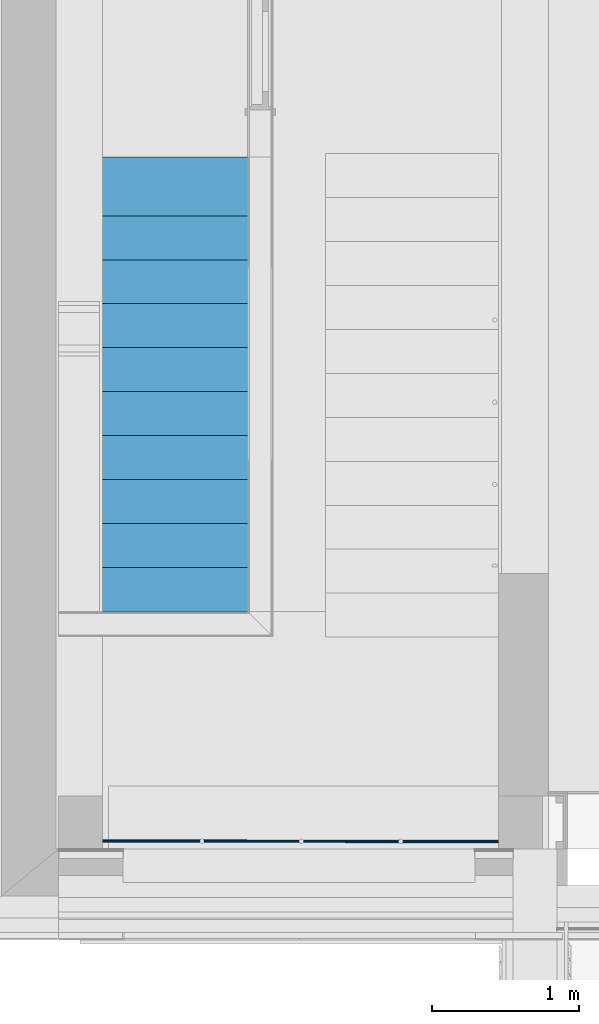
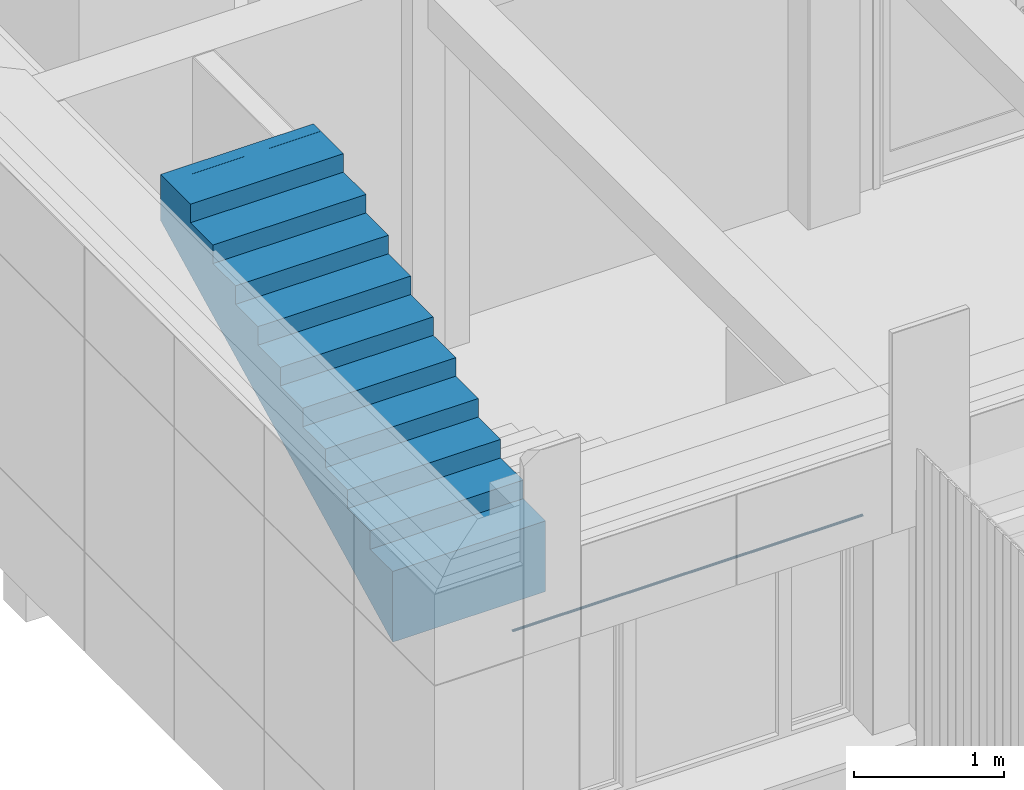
# One storey, part 76 of 418: 2 members, 2 elements without a shape of their own.
"""IFC2X3 building model written with IfcOpenShell, lengths in millimetres."""

from ifc_helpers import new_model, entity, si_unit, converted_unit, derived_unit, money_unit, direction, frame, origin_with_axes, place, context, subcontext, project, spatial, faceted_brep, material, type_object, element, aggregate, save


model = new_model("IFC2X3")

# Units and contexts
model_context = context("Model", 3, precision=0.01, world=origin_with_axes(), true_north=direction((0.0, 1.0)))
body_context = subcontext(model_context, "Body", "Model", "MODEL_VIEW")
ifc_project = project(units=[si_unit("LENGTHUNIT", "METRE", prefix="MILLI"), si_unit("AREAUNIT", "SQUARE_METRE"), si_unit("VOLUMEUNIT", "CUBIC_METRE"), converted_unit("PLANEANGLEUNIT", "DEGREE", entity("IfcPlaneAngleMeasure", 0.0174532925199), si_unit("PLANEANGLEUNIT", "RADIAN"), dimensions=[0, 0, 0, 0, 0, 0, 0]), si_unit("SOLIDANGLEUNIT", "STERADIAN"), money_unit("EUR"), converted_unit("TIMEUNIT", "Year", entity("IfcTimeMeasure", 31556926.0), si_unit("TIMEUNIT", "SECOND"), dimensions=[0, 0, 1, 0, 0, 0, 0]), si_unit("MASSUNIT", "GRAM", prefix="KILO"), si_unit("THERMODYNAMICTEMPERATUREUNIT", "DEGREE_CELSIUS"), si_unit("LUMINOUSINTENSITYUNIT", "LUMEN"), si_unit("ENERGYUNIT", "JOULE", prefix="MEGA"), derived_unit("THERMALCONDUCTANCEUNIT", [(si_unit("POWERUNIT", "WATT"), 1), (si_unit("LENGTHUNIT", "METRE"), -1), (si_unit("THERMODYNAMICTEMPERATUREUNIT", "KELVIN"), -1)]), derived_unit("SPECIFICHEATCAPACITYUNIT", [(si_unit("ENERGYUNIT", "JOULE"), 1), (si_unit("MASSUNIT", "GRAM", prefix="KILO"), -1), (si_unit("THERMODYNAMICTEMPERATUREUNIT", "KELVIN"), -1)]), derived_unit("MASSDENSITYUNIT", [(si_unit("MASSUNIT", "GRAM", prefix="KILO"), 1), (si_unit("VOLUMEUNIT", "CUBIC_METRE"), -1)])], contexts=[model_context])

# Site, building, storey
site_placement = place(None, origin_with_axes())
site = spatial("IfcSite", under=ifc_project, at=site_placement, Name="Paldiski mnt 245/1, Tallinn, Harjumaa", CompositionType="COMPLEX")
building_placement = place(site_placement, origin_with_axes())
building = spatial("IfcBuilding", under=site, at=building_placement, Name="RKAS Hoone üldnimetus (kasutust iseloomustav) -> IFC Project Manager -> SOLIBRI", CompositionType="ELEMENT")
storey_placement = place(building_placement, origin_with_axes())
storey = spatial("IfcBuildingStorey", under=building, at=storey_placement, Name="Esimene korrus", CompositionType="ELEMENT", Elevation=0.0)

# Railing, member
railing_type = type_object("IfcRailingType", Name="Railing Type", PredefinedType="NOTDEFINED")
railing_placement = place(storey_placement, frame((-47325.2205646, -12456.5621002, 1891.0), z_axis=(0.0, 0.0, 1.0), x_axis=(-0.773149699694, -0.634223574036, 0.0)))
railing = element("IfcRailing", 1, at=railing_placement, inside=storey, type_object=railing_type, Name="PIIRE", PredefinedType="NOTDEFINED")
ifc_material_1 = material(Name="ET-07_Teras - Roostevaba")
member_type_1 = type_object("IfcMemberType", Name="IfcMember", PredefinedType="USERDEFINED")
member_1_placement = place(railing_placement, frame((-1070.36853265, 879.288436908, 345.857864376), z_axis=(0.0, 0.0, 1.0), x_axis=(-0.773149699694, 0.634223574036, 0.0)))
member_1 = element("IfcMember", 2, at=member_1_placement, type_object=member_type_1, material=ifc_material_1, Name="Piirde alaosa - 001", ObjectType="Rail", context=body_context, shape_type="Brep", body=[
    faceted_brep([(-1349.99301854, 10.9424945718, 14.1421356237), (-1349.99312461, 10.790572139, 15.8786174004), (1350.00687539, 8.90557812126, 15.8786174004), (1350.00698146, 9.05750055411, 14.1421356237), (-1349.99312461, 10.790572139, 12.4056538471), (-1349.99343958, 10.3394209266, 10.7219341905), (-1349.99395388, 9.60274893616, 9.14213562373), (-1349.99465189, 8.60293957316, 7.71425952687), (-1349.99551241, 7.37037153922, 6.48169119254), (-1349.99650927, 5.94249579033, 5.48188158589), (-1349.9976122, 4.36269760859, 4.74520941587), (-1349.99878768, 2.67897836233, 4.29405809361), (-1350.0, 0.942497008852, 4.14213562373), (-1350.00121232, -0.793984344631, 4.29405809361), (-1350.0023878, -2.47770359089, 4.74520941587), (-1350.00349073, -4.05750177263, 5.48188158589), (-1350.00448759, -5.48537752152, 6.48169119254), (-1350.00534811, -6.71794555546, 7.71425952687), (-1350.00604612, -7.71775491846, 9.14213562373), (-1350.00656042, -8.45442690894, 10.7219341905), (-1350.00687539, -8.90557812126, 12.4056538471), (-1350.00698146, -9.05750055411, 14.1421356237), (-1350.00687539, -8.90557812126, 15.8786174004), (-1350.00656042, -8.45442690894, 17.562337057), (-1350.00604612, -7.71775491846, 19.1421356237), (-1350.00534811, -6.71794555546, 20.5700117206), (-1350.00448759, -5.48537752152, 21.8025800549), (-1350.00349073, -4.05750177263, 22.8023896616), (-1350.0023878, -2.47770359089, 23.5390618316), (-1350.00121232, -0.793984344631, 23.9902131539), (-1350.0, 0.942497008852, 24.1421356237), (-1349.99878768, 2.67897836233, 23.9902131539), (-1349.9976122, 4.36269760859, 23.5390618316), (-1349.99650927, 5.94249579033, 22.8023896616), (-1349.99551241, 7.37037153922, 21.8025800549), (-1349.99465189, 8.60293957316, 20.5700117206), (-1349.99395388, 9.60274893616, 19.1421356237), (-1349.99343958, 10.3394209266, 17.562337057), (-1349.9961602, 6.44249566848, 14.1421356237), (-1349.99621853, 6.35893833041, 15.0972006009), (-1349.99639177, 6.11080516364, 16.023246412), (-1349.99667463, 5.70563556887, 16.8921356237), (-1349.99705854, 5.15574041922, 17.677467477), (-1349.99753182, 4.47782800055, 18.3553800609), (-1349.9980801, 3.69249633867, 18.9052753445), (-1349.99868671, 2.82360733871, 19.3104450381), (-1349.99933323, 1.89756175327, 19.5585782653), (-1350.0, 0.942497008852, 19.6421356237), (-1350.00066677, -0.0125677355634, 19.5585782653), (-1350.00131329, -0.938613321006, 19.3104450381), (-1350.0019199, -1.80750232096, 18.9052753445), (-1350.00246818, -2.59283398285, 18.3553800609), (-1350.00294146, -3.27074640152, 17.677467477), (-1350.00332537, -3.82064155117, 16.8921356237), (-1350.00360823, -4.22581114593, 16.023246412), (-1350.00378147, -4.47394431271, 15.0972006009), (-1350.0038398, -4.55750165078, 14.1421356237), (-1350.00378147, -4.47394431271, 13.1870706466), (-1350.00360823, -4.22581114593, 12.2610248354), (-1350.00332537, -3.82064155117, 11.3921356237), (-1350.00294146, -3.27074640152, 10.6068037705), (-1350.00246818, -2.59283398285, 9.92889118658), (-1350.0019199, -1.80750232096, 9.37899590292), (-1350.00131329, -0.938613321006, 8.97382620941), (-1350.00066677, -0.0125677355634, 8.72569298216), (-1350.0, 0.942497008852, 8.64213562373), (-1349.99933323, 1.89756175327, 8.72569298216), (-1349.99868671, 2.82360733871, 8.97382620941), (-1349.9980801, 3.69249633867, 9.37899590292), (-1349.99753182, 4.47782800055, 9.92889118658), (-1349.99705854, 5.15574041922, 10.6068037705), (-1349.99667463, 5.70563556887, 11.3921356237), (-1349.99639177, 6.11080516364, 12.2610248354), (-1349.99621853, 6.35893833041, 13.1870706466), (1350.00656042, 8.45442690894, 17.562337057), (1350.00604612, 7.71775491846, 19.1421356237), (1350.00534811, 6.71794555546, 20.5700117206), (1350.00448759, 5.48537752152, 21.8025800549), (1350.00349073, 4.05750177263, 22.8023896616), (1350.0023878, 2.47770359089, 23.5390618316), (1350.00121232, 0.793984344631, 23.9902131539), (1350.0, -0.942497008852, 24.1421356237), (1349.99878768, -2.67897836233, 23.9902131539), (1349.9976122, -4.36269760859, 23.5390618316), (1349.99650927, -5.94249579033, 22.8023896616), (1349.99551241, -7.37037153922, 21.8025800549), (1349.99465189, -8.60293957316, 20.5700117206), (1349.99395388, -9.60274893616, 19.1421356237), (1349.99343958, -10.3394209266, 17.562337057), (1349.99312461, -10.790572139, 15.8786174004), (1349.99301854, -10.9424945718, 14.1421356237), (1349.99312461, -10.790572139, 12.4056538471), (1349.99343958, -10.3394209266, 10.7219341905), (1349.99395388, -9.60274893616, 9.14213562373), (1349.99465189, -8.60293957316, 7.71425952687), (1349.99551241, -7.37037153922, 6.48169119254), (1349.99650927, -5.94249579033, 5.48188158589), (1349.9976122, -4.36269760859, 4.74520941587), (1349.99878768, -2.67897836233, 4.29405809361), (1350.0, -0.942497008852, 4.14213562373), (1350.00121232, 0.793984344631, 4.29405809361), (1350.0023878, 2.47770359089, 4.74520941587), (1350.00349073, 4.05750177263, 5.48188158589), (1350.00448759, 5.48537752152, 6.48169119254), (1350.00534811, 6.71794555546, 7.71425952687), (1350.00604612, 7.71775491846, 9.14213562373), (1350.00656042, 8.45442690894, 10.7219341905), (1350.00687539, 8.90557812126, 12.4056538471), (1350.0038398, 4.55750165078, 14.1421356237), (1350.00378147, 4.47394431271, 13.1870706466), (1350.00360823, 4.22581114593, 12.2610248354), (1350.00332537, 3.82064155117, 11.3921356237), (1350.00294146, 3.27074640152, 10.6068037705), (1350.00246818, 2.59283398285, 9.92889118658), (1350.0019199, 1.80750232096, 9.37899590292), (1350.00131329, 0.938613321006, 8.97382620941), (1350.00066677, 0.0125677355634, 8.72569298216), (1350.0, -0.942497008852, 8.64213562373), (1349.99933323, -1.89756175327, 8.72569298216), (1349.99868671, -2.82360733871, 8.97382620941), (1349.9980801, -3.69249633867, 9.37899590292), (1349.99753182, -4.47782800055, 9.92889118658), (1349.99705854, -5.15574041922, 10.6068037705), (1349.99667463, -5.70563556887, 11.3921356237), (1349.99639177, -6.11080516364, 12.2610248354), (1349.99621853, -6.35893833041, 13.1870706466), (1349.9961602, -6.44249566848, 14.1421356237), (1349.99621853, -6.35893833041, 15.0972006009), (1349.99639177, -6.11080516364, 16.023246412), (1349.99667463, -5.70563556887, 16.8921356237), (1349.99705854, -5.15574041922, 17.677467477), (1349.99753182, -4.47782800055, 18.3553800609), (1349.9980801, -3.69249633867, 18.9052753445), (1349.99868671, -2.82360733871, 19.3104450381), (1349.99933323, -1.89756175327, 19.5585782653), (1350.0, -0.942497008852, 19.6421356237), (1350.00066677, 0.0125677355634, 19.5585782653), (1350.00131329, 0.938613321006, 19.3104450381), (1350.0019199, 1.80750232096, 18.9052753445), (1350.00246818, 2.59283398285, 18.3553800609), (1350.00294146, 3.27074640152, 17.677467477), (1350.00332537, 3.82064155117, 16.8921356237), (1350.00360823, 4.22581114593, 16.023246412), (1350.00378147, 4.47394431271, 15.0972006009)], [[[0, 1, 2, 3]], [[0, 4, 5, 6, 7, 8, 9, 10, 11, 12, 13, 14, 15, 16, 17, 18, 19, 20, 21, 22, 23, 24, 25, 26, 27, 28, 29, 30, 31, 32, 33, 34, 35, 36, 37, 1], [38, 39, 40, 41, 42, 43, 44, 45, 46, 47, 48, 49, 50, 51, 52, 53, 54, 55, 56, 57, 58, 59, 60, 61, 62, 63, 64, 65, 66, 67, 68, 69, 70, 71, 72, 73]], [[1, 37, 74, 2]], [[3, 2, 74, 75, 76, 77, 78, 79, 80, 81, 82, 83, 84, 85, 86, 87, 88, 89, 90, 91, 92, 93, 94, 95, 96, 97, 98, 99, 100, 101, 102, 103, 104, 105, 106, 107], [108, 109, 110, 111, 112, 113, 114, 115, 116, 117, 118, 119, 120, 121, 122, 123, 124, 125, 126, 127, 128, 129, 130, 131, 132, 133, 134, 135, 136, 137, 138, 139, 140, 141, 142, 143]], [[4, 0, 3, 107]], [[5, 4, 107, 106]], [[6, 5, 106, 105]], [[7, 6, 105, 104]], [[8, 7, 104, 103]], [[9, 8, 103, 102]], [[10, 9, 102, 101]], [[11, 10, 101, 100]], [[12, 11, 100, 99]], [[13, 12, 99, 98]], [[14, 13, 98, 97]], [[15, 14, 97, 96]], [[16, 15, 96, 95]], [[17, 16, 95, 94]], [[18, 17, 94, 93]], [[19, 18, 93, 92]], [[20, 19, 92, 91]], [[21, 20, 91, 90]], [[22, 21, 90, 89]], [[23, 22, 89, 88]], [[24, 23, 88, 87]], [[25, 24, 87, 86]], [[26, 25, 86, 85]], [[27, 26, 85, 84]], [[28, 27, 84, 83]], [[29, 28, 83, 82]], [[30, 29, 82, 81]], [[31, 30, 81, 80]], [[32, 31, 80, 79]], [[33, 32, 79, 78]], [[34, 33, 78, 77]], [[35, 34, 77, 76]], [[36, 35, 76, 75]], [[37, 36, 75, 74]], [[39, 38, 108, 143]], [[40, 39, 143, 142]], [[41, 40, 142, 141]], [[42, 41, 141, 140]], [[43, 42, 140, 139]], [[44, 43, 139, 138]], [[45, 44, 138, 137]], [[46, 45, 137, 136]], [[47, 46, 136, 135]], [[48, 47, 135, 134]], [[49, 48, 134, 133]], [[50, 49, 133, 132]], [[51, 50, 132, 131]], [[52, 51, 131, 130]], [[53, 52, 130, 129]], [[54, 53, 129, 128]], [[55, 54, 128, 127]], [[56, 55, 127, 126]], [[57, 56, 126, 125]], [[58, 57, 125, 124]], [[59, 58, 124, 123]], [[60, 59, 123, 122]], [[61, 60, 122, 121]], [[62, 61, 121, 120]], [[63, 62, 120, 119]], [[64, 63, 119, 118]], [[65, 64, 118, 117]], [[66, 65, 117, 116]], [[67, 66, 116, 115]], [[68, 67, 115, 114]], [[69, 68, 114, 113]], [[70, 69, 113, 112]], [[71, 70, 112, 111]], [[72, 71, 111, 110]], [[73, 72, 110, 109]], [[38, 73, 109, 108]]]),
])
aggregate(railing, [member_1])

# Stair, member
stair_placement = place(storey_placement, frame((-47310.0, -10890.5008533, 1640.0), z_axis=(0.0, 0.0, 1.0), x_axis=(-0.773149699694, 0.634223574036, 0.0)))
stair = element("IfcStair", 3, at=stair_placement, inside=storey, Name="TREPP", ShapeType="NOTDEFINED")
ifc_material_2 = material(Name="KON-00_GENEERILINE - KONSTRUKTSIOON")
member_type_2 = type_object("IfcMemberType", Name="IfcMember", PredefinedType="USERDEFINED")
member_2_placement = place(stair_placement, origin_with_axes())
member_2 = element("IfcMember", 4, at=member_2_placement, type_object=member_type_2, material=ifc_material_2, Name="Trepp", ObjectType="Stair Structure", context=body_context, shape_type="Brep", body=[
    faceted_brep([(990.35407647, -3067.83291644, 1509.09090909), (1902.67072211, -2319.44909908, 1509.09090909), (1712.4036499, -2087.50418917, 1509.09090909), (800.087004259, -2835.88800654, 1509.09090909), (990.35407647, -3067.83291644, 1510.0), (1902.67072211, -2319.44909908, 1510.0), (1902.67072211, -2319.44909908, 1083.72177323), (1855.10395406, -2261.4628716, 1045.9945005), (1807.537186, -2203.47664413, 1008.26722777), (1759.97041795, -2145.49041665, 970.539955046), (1712.4036499, -2087.50418917, 932.812682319), (1648.98129249, -2010.1892192, 882.509652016), (1585.55893509, -1932.87424923, 832.206621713), (1522.13657769, -1855.55927927, 781.90359141), (1474.56980963, -1797.57305179, 744.176318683), (1458.71422028, -1778.2443093, 731.600561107), (1427.00304158, -1739.58682431, 706.449045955), (1395.29186288, -1700.92933933, 681.297530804), (1379.43627353, -1681.60059683, 668.721773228), (1331.86950548, -1623.61436936, 630.994500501), (1284.30273742, -1565.62814188, 593.267227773), (1236.73596937, -1507.6419144, 555.539955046), (1189.16920132, -1449.65568693, 517.812682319), (1141.60243327, -1391.66945945, 480.085409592), (1078.18007586, -1314.35448948, 429.782379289), (1014.75771846, -1237.03951951, 379.479348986), (951.335361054, -1159.72454954, 329.176318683), (903.768593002, -1101.73832206, 291.449045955), (887.913003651, -1082.40957957, 278.87328838), (856.201824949, -1043.75209459, 253.721773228), (824.490646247, -1005.0946096, 228.570258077), (808.635056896, -985.76586711, 215.994500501), (761.068288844, -927.779639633, 178.267227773), (713.501520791, -869.793412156, 140.539955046), (665.934752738, -811.807184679, 102.812682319), (618.367984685, -753.820957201, 65.0854095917), (570.801216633, -695.834729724, 27.3581368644), (507.378859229, -618.519759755, -22.9448934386), (443.956501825, -541.204789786, -73.2479237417), (380.534144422, -463.889819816, -123.550954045), (332.967376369, -405.903592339, -161.278226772), (317.111787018, -386.574849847, -173.853984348), (285.400608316, -347.917364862, -199.005499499), (253.689429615, -309.259879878, -224.157014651), (237.833840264, -289.931137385, -236.732772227), (190.267072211, -231.944909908, -274.460044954), (142.700304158, -173.958682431, -312.187317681), (126.844714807, -154.629939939, -324.763075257), (95.1335361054, -115.972454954, -349.914590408), (63.4223574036, -77.3149699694, -375.06610556), (47.5667680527, -57.986227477, -387.641863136), (0.0, 0.0, -425.369135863), (0.0, 0.0, 150.909090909), (190.267072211, -231.944909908, 150.909090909), (190.267072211, -231.944909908, 301.818181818), (380.534144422, -463.889819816, 301.818181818), (380.534144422, -463.889819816, 452.727272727), (570.801216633, -695.834729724, 452.727272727), (570.801216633, -695.834729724, 603.636363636), (761.068288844, -927.779639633, 603.636363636), (761.068288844, -927.779639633, 754.545454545), (951.335361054, -1159.72454954, 754.545454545), (951.335361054, -1159.72454954, 905.454545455), (1141.60243327, -1391.66945945, 905.454545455), (1141.60243327, -1391.66945945, 1056.36363636), (1331.86950548, -1623.61436936, 1056.36363636), (1331.86950548, -1623.61436936, 1207.27272727), (1522.13657769, -1855.55927927, 1207.27272727), (1522.13657769, -1855.55927927, 1358.18181818), (1712.4036499, -2087.50418917, 1358.18181818), (1966.09307951, -2396.76406905, 1510.0), (1966.09307951, -2396.76406905, 1134.02480353), (800.087004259, -2835.88800654, 1358.18181818), (609.819932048, -2603.94309663, 1358.18181818), (609.819932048, -2603.94309663, 1207.27272727), (419.552859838, -2371.99818672, 1207.27272727), (419.552859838, -2371.99818672, 1056.36363636), (229.285787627, -2140.05327681, 1056.36363636), (229.285787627, -2140.05327681, 905.454545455), (39.0187154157, -1908.1083669, 905.454545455), (39.0187154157, -1908.1083669, 754.545454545), (-151.248356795, -1676.163457, 754.545454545), (-151.248356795, -1676.163457, 603.636363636), (-341.515429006, -1444.21854709, 603.636363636), (-341.515429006, -1444.21854709, 452.727272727), (-531.782501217, -1212.27363718, 452.727272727), (-531.782501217, -1212.27363718, 301.818181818), (-722.049573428, -980.328727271, 301.818181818), (-722.049573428, -980.328727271, 150.909090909), (-912.316645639, -748.383817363, 150.909090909), (-912.316645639, -748.383817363, -425.369135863), (-864.749877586, -806.37004484, -387.641863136), (-848.894288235, -825.698787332, -375.06610556), (-817.183109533, -864.356272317, -349.914590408), (-785.471930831, -903.013757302, -324.763075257), (-769.616341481, -922.342499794, -312.187317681), (-722.049573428, -980.328727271, -274.460044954), (-674.482805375, -1038.31495475, -236.732772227), (-658.627216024, -1057.64369724, -224.157014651), (-626.916037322, -1096.30118223, -199.005499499), (-595.204858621, -1134.95866721, -173.853984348), (-579.34926927, -1154.2874097, -161.278226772), (-531.782501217, -1212.27363718, -123.550954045), (-468.360143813, -1289.58860715, -73.2479237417), (-404.93778641, -1366.90357712, -22.9448934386), (-341.515429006, -1444.21854709, 27.3581368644), (-293.948660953, -1502.20477456, 65.0854095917), (-246.381892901, -1560.19100204, 102.812682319), (-198.815124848, -1618.17722952, 140.539955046), (-151.248356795, -1676.163457, 178.267227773), (-103.681588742, -1734.14968447, 215.994500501), (-87.8259993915, -1753.47842696, 228.570258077), (-56.1148206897, -1792.13591195, 253.721773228), (-24.4036419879, -1830.79339693, 278.87328838), (-8.54805263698, -1850.12213943, 291.449045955), (39.0187154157, -1908.1083669, 329.176318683), (102.441072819, -1985.42333687, 379.479348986), (165.863430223, -2062.73830684, 429.782379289), (229.285787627, -2140.05327681, 480.085409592), (276.852555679, -2198.03950429, 517.812682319), (324.419323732, -2256.02573177, 555.539955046), (371.986091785, -2314.01195924, 593.267227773), (419.552859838, -2371.99818672, 630.994500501), (467.11962789, -2429.9844142, 668.721773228), (482.975217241, -2449.31315669, 681.297530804), (514.686395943, -2487.97064167, 706.449045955), (546.397574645, -2526.62812666, 731.600561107), (562.253163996, -2545.95686915, 744.176318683), (609.819932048, -2603.94309663, 781.90359141), (673.242289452, -2681.2580666, 832.206621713), (736.664646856, -2758.57303657, 882.509652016), (800.087004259, -2835.88800654, 932.812682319), (847.653772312, -2893.87423401, 970.539955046), (895.220540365, -2951.86046149, 1008.26722777), (942.787308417, -3009.84668897, 1045.9945005), (990.35407647, -3067.83291644, 1083.72177323), (1053.77643387, -3145.14788641, 1134.02480353), (1053.77643387, -3145.14788641, 1510.0)], [[[0, 1, 2, 3]], [[1, 0, 4, 5]], [[6, 7, 8, 9, 10, 11, 12, 13, 14, 15, 16, 17, 18, 19, 20, 21, 22, 23, 24, 25, 26, 27, 28, 29, 30, 31, 32, 33, 34, 35, 36, 37, 38, 39, 40, 41, 42, 43, 44, 45, 46, 47, 48, 49, 50, 51, 52, 53, 54, 55, 56, 57, 58, 59, 60, 61, 62, 63, 64, 65, 66, 67, 68, 69, 2, 1, 5, 70, 71]], [[3, 2, 69, 72]], [[0, 3, 72, 73, 74, 75, 76, 77, 78, 79, 80, 81, 82, 83, 84, 85, 86, 87, 88, 89, 90, 91, 92, 93, 94, 95, 96, 97, 98, 99, 100, 101, 102, 103, 104, 105, 106, 107, 108, 109, 110, 111, 112, 113, 114, 115, 116, 117, 118, 119, 120, 121, 122, 123, 124, 125, 126, 127, 128, 129, 130, 131, 132, 133, 134, 135, 136, 137, 4]], [[4, 137, 70, 5]], [[135, 134, 7, 6, 71, 136]], [[133, 8, 7, 134]], [[132, 9, 8, 133]], [[131, 10, 9, 132]], [[130, 11, 10, 131]], [[129, 12, 11, 130]], [[128, 13, 12, 129]], [[127, 14, 13, 128]], [[126, 15, 14, 127]], [[125, 16, 15, 126]], [[124, 17, 16, 125]], [[123, 18, 17, 124]], [[122, 19, 18, 123]], [[121, 20, 19, 122]], [[120, 21, 20, 121]], [[119, 22, 21, 120]], [[118, 23, 22, 119]], [[117, 24, 23, 118]], [[116, 25, 24, 117]], [[115, 26, 25, 116]], [[114, 27, 26, 115]], [[113, 28, 27, 114]], [[112, 29, 28, 113]], [[111, 30, 29, 112]], [[110, 31, 30, 111]], [[109, 32, 31, 110]], [[108, 33, 32, 109]], [[107, 34, 33, 108]], [[106, 35, 34, 107]], [[105, 36, 35, 106]], [[104, 37, 36, 105]], [[103, 38, 37, 104]], [[102, 39, 38, 103]], [[101, 40, 39, 102]], [[100, 41, 40, 101]], [[99, 42, 41, 100]], [[98, 43, 42, 99]], [[97, 44, 43, 98]], [[96, 45, 44, 97]], [[95, 46, 45, 96]], [[94, 47, 46, 95]], [[93, 48, 47, 94]], [[92, 49, 48, 93]], [[91, 50, 49, 92]], [[90, 51, 50, 91]], [[52, 51, 90, 89]], [[52, 89, 88, 53]], [[87, 54, 53, 88]], [[54, 87, 86, 55]], [[85, 56, 55, 86]], [[56, 85, 84, 57]], [[83, 58, 57, 84]], [[58, 83, 82, 59]], [[81, 60, 59, 82]], [[60, 81, 80, 61]], [[79, 62, 61, 80]], [[62, 79, 78, 63]], [[77, 64, 63, 78]], [[64, 77, 76, 65]], [[75, 66, 65, 76]], [[66, 75, 74, 67]], [[73, 68, 67, 74]], [[68, 73, 72, 69]], [[136, 71, 70, 137]]]),
])
aggregate(stair, [member_2])

save(model, "model.ifc")
